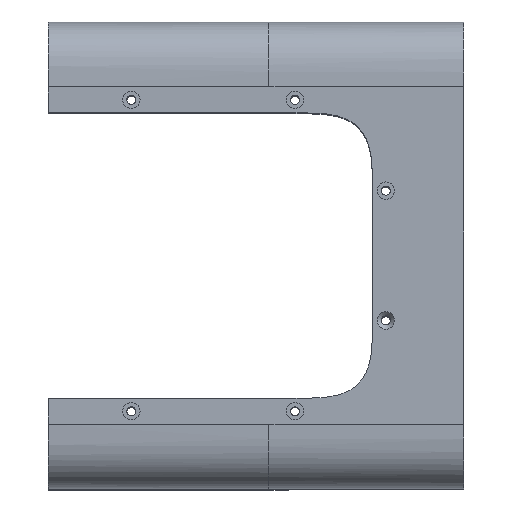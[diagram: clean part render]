
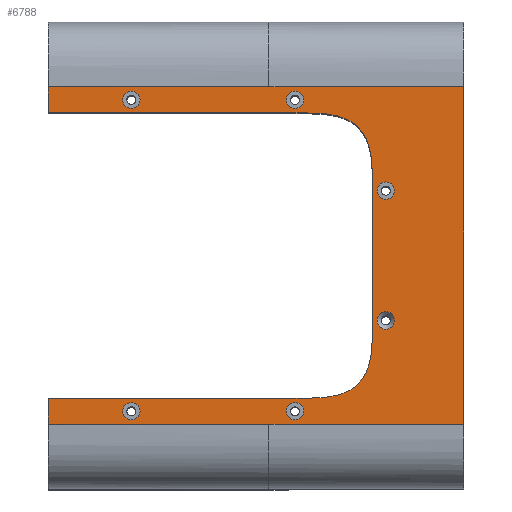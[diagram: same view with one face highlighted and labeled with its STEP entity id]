
A CAD part, top view. The second image highlights one B-rep face of the part: STEP entity #6788.
In plain terms, the highlighted planar face has unit normal (0, 0, 1).
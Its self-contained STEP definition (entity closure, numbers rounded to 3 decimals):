
#782=FACE_BOUND('',#1658,.T.);
#783=FACE_BOUND('',#1659,.T.);
#784=FACE_BOUND('',#1660,.T.);
#785=FACE_BOUND('',#1661,.T.);
#786=FACE_BOUND('',#1662,.T.);
#787=FACE_BOUND('',#1663,.T.);
#838=CIRCLE('',#7000,3.35);
#840=CIRCLE('',#7003,3.35);
#842=CIRCLE('',#7006,3.35);
#914=CIRCLE('',#7168,3.35);
#916=CIRCLE('',#7171,3.35);
#918=CIRCLE('',#7174,3.35);
#1222=FACE_OUTER_BOUND('',#1657,.T.);
#1657=EDGE_LOOP('',(#5672,#5673,#5674,#5675,#5676,#5677,#5678,#5679,#5680,
#5681,#5682,#5683));
#1658=EDGE_LOOP('',(#5684));
#1659=EDGE_LOOP('',(#5685));
#1660=EDGE_LOOP('',(#5686));
#1661=EDGE_LOOP('',(#5687));
#1662=EDGE_LOOP('',(#5688));
#1663=EDGE_LOOP('',(#5689));
#1831=(
BOUNDED_CURVE()
B_SPLINE_CURVE(5,(#18430,#18431,#18432,#18433,#18434,#18435),
 .UNSPECIFIED.,.F.,.F.)
B_SPLINE_CURVE_WITH_KNOTS((6,6),(0.,1.),.UNSPECIFIED.)
CURVE()
GEOMETRIC_REPRESENTATION_ITEM()
RATIONAL_B_SPLINE_CURVE((1.,1.,1.,1.,1.,1.))
REPRESENTATION_ITEM('')
);
#1850=(
BOUNDED_CURVE()
B_SPLINE_CURVE(5,(#38190,#38191,#38192,#38193,#38194,#38195),
 .UNSPECIFIED.,.F.,.F.)
B_SPLINE_CURVE_WITH_KNOTS((6,6),(0.,1.),.UNSPECIFIED.)
CURVE()
GEOMETRIC_REPRESENTATION_ITEM()
RATIONAL_B_SPLINE_CURVE((1.,1.,1.,1.,1.,1.))
REPRESENTATION_ITEM('')
);
#1907=LINE('',#16442,#2305);
#1913=LINE('',#16458,#2311);
#1949=LINE('',#18448,#2347);
#1951=LINE('',#18482,#2349);
#2076=LINE('',#36146,#2474);
#2080=LINE('',#36173,#2478);
#2125=LINE('',#38199,#2523);
#2127=LINE('',#38221,#2525);
#2128=LINE('',#38224,#2526);
#2129=LINE('',#38225,#2527);
#2305=VECTOR('',#7511,10.);
#2311=VECTOR('',#7523,10.);
#2347=VECTOR('',#7597,10.);
#2349=VECTOR('',#7599,10.);
#2474=VECTOR('',#8016,10.);
#2478=VECTOR('',#8024,10.);
#2523=VECTOR('',#8117,10.);
#2525=VECTOR('',#8121,10.);
#2526=VECTOR('',#8124,10.);
#2527=VECTOR('',#8125,10.);
#2737=VERTEX_POINT('',#15764);
#2739=VERTEX_POINT('',#15770);
#2741=VERTEX_POINT('',#15776);
#2779=VERTEX_POINT('',#16408);
#2780=VERTEX_POINT('',#16425);
#2787=VERTEX_POINT('',#16456);
#2822=VERTEX_POINT('',#18428);
#2823=VERTEX_POINT('',#18429);
#2827=VERTEX_POINT('',#18481);
#3023=VERTEX_POINT('',#35484);
#3025=VERTEX_POINT('',#35490);
#3027=VERTEX_POINT('',#35496);
#3065=VERTEX_POINT('',#36128);
#3066=VERTEX_POINT('',#36145);
#3071=VERTEX_POINT('',#36172);
#3110=VERTEX_POINT('',#38188);
#3111=VERTEX_POINT('',#38189);
#3113=VERTEX_POINT('',#38223);
#3412=EDGE_CURVE('',#2737,#2737,#838,.T.);
#3415=EDGE_CURVE('',#2739,#2739,#840,.T.);
#3418=EDGE_CURVE('',#2741,#2741,#842,.T.);
#3477=EDGE_CURVE('',#2779,#2780,#1907,.T.);
#3485=EDGE_CURVE('',#2787,#2780,#1913,.T.);
#3548=EDGE_CURVE('',#2822,#2823,#1831,.T.);
#3553=EDGE_CURVE('',#2787,#2823,#1949,.T.);
#3556=EDGE_CURVE('',#2827,#2779,#1951,.T.);
#3861=EDGE_CURVE('',#3023,#3023,#914,.T.);
#3864=EDGE_CURVE('',#3025,#3025,#916,.T.);
#3867=EDGE_CURVE('',#3027,#3027,#918,.T.);
#3925=EDGE_CURVE('',#3065,#3066,#2076,.T.);
#3931=EDGE_CURVE('',#3071,#3066,#2080,.T.);
#4006=EDGE_CURVE('',#3110,#3111,#1850,.T.);
#4009=EDGE_CURVE('',#3071,#3111,#2125,.T.);
#4012=EDGE_CURVE('',#3110,#2822,#2127,.T.);
#4013=EDGE_CURVE('',#3113,#3065,#2128,.T.);
#4014=EDGE_CURVE('',#2827,#3113,#2129,.T.);
#5672=ORIENTED_EDGE('',*,*,#4009,.F.);
#5673=ORIENTED_EDGE('',*,*,#3931,.T.);
#5674=ORIENTED_EDGE('',*,*,#3925,.F.);
#5675=ORIENTED_EDGE('',*,*,#4013,.F.);
#5676=ORIENTED_EDGE('',*,*,#4014,.F.);
#5677=ORIENTED_EDGE('',*,*,#3556,.T.);
#5678=ORIENTED_EDGE('',*,*,#3477,.T.);
#5679=ORIENTED_EDGE('',*,*,#3485,.F.);
#5680=ORIENTED_EDGE('',*,*,#3553,.T.);
#5681=ORIENTED_EDGE('',*,*,#3548,.F.);
#5682=ORIENTED_EDGE('',*,*,#4012,.F.);
#5683=ORIENTED_EDGE('',*,*,#4006,.T.);
#5684=ORIENTED_EDGE('',*,*,#3418,.T.);
#5685=ORIENTED_EDGE('',*,*,#3415,.T.);
#5686=ORIENTED_EDGE('',*,*,#3412,.T.);
#5687=ORIENTED_EDGE('',*,*,#3861,.F.);
#5688=ORIENTED_EDGE('',*,*,#3864,.F.);
#5689=ORIENTED_EDGE('',*,*,#3867,.F.);
#6488=PLANE('',#7219);
#6788=ADVANCED_FACE('',(#1222,#782,#783,#784,#785,#786,#787),#6488,.F.);
#7000=AXIS2_PLACEMENT_3D('',#15765,#7440,#7441);
#7003=AXIS2_PLACEMENT_3D('',#15771,#7447,#7448);
#7006=AXIS2_PLACEMENT_3D('',#15777,#7454,#7455);
#7168=AXIS2_PLACEMENT_3D('',#35485,#7945,#7946);
#7171=AXIS2_PLACEMENT_3D('',#35491,#7952,#7953);
#7174=AXIS2_PLACEMENT_3D('',#35497,#7959,#7960);
#7219=AXIS2_PLACEMENT_3D('',#38222,#8122,#8123);
#7440=DIRECTION('center_axis',(0.,0.,
-1.));
#7441=DIRECTION('ref_axis',(-1.,0.,0.));
#7447=DIRECTION('center_axis',(0.,0.,
-1.));
#7448=DIRECTION('ref_axis',(-1.,0.,0.));
#7454=DIRECTION('center_axis',(0.,0.,
-1.));
#7455=DIRECTION('ref_axis',(-1.,0.,0.));
#7511=DIRECTION('',(-1.,0.,0.));
#7523=DIRECTION('',(0.,1.,0.));
#7597=DIRECTION('',(1.,0.,0.));
#7599=DIRECTION('',(-1.,0.,0.));
#7945=DIRECTION('center_axis',(0.,0.,
1.));
#7946=DIRECTION('ref_axis',(-1.,0.,0.));
#7952=DIRECTION('center_axis',(0.,0.,
1.));
#7953=DIRECTION('ref_axis',(-1.,0.,0.));
#7959=DIRECTION('center_axis',(0.,0.,
1.));
#7960=DIRECTION('ref_axis',(-1.,0.,0.));
#8016=DIRECTION('',(-1.,0.,0.));
#8024=DIRECTION('',(0.,-1.,0.));
#8117=DIRECTION('',(1.,0.,0.));
#8121=DIRECTION('',(0.,1.,0.));
#8122=DIRECTION('center_axis',(0.,0.,
-1.));
#8123=DIRECTION('ref_axis',(0.,-1.,0.));
#8124=DIRECTION('',(-1.,0.,0.));
#8125=DIRECTION('',(0.,-1.,0.));
#15764=CARTESIAN_POINT('',(98.35,60.,116.5));
#15765=CARTESIAN_POINT('Origin',(95.,60.,116.5));
#15770=CARTESIAN_POINT('',(133.35,25.,116.5));
#15771=CARTESIAN_POINT('Origin',(130.,25.,116.5));
#15776=CARTESIAN_POINT('',(35.35,60.,116.5));
#15777=CARTESIAN_POINT('Origin',(32.,60.,116.5));
#16408=CARTESIAN_POINT('',(85.,65.,116.5));
#16425=CARTESIAN_POINT('',(0.,65.,116.5));
#16442=CARTESIAN_POINT('',(85.,65.,116.5));
#16456=CARTESIAN_POINT('',(0.,55.,116.5));
#16458=CARTESIAN_POINT('',(0.,33.75,116.5));
#18428=CARTESIAN_POINT('',(125.,25.,116.5));
#18429=CARTESIAN_POINT('',(95.,55.,116.5));
#18430=CARTESIAN_POINT('Ctrl Pts',(125.,25.,116.5));
#18431=CARTESIAN_POINT('Ctrl Pts',(125.,40.,116.5));
#18432=CARTESIAN_POINT('Ctrl Pts',(125.,47.5,116.5));
#18433=CARTESIAN_POINT('Ctrl Pts',(117.5,55.,116.5));
#18434=CARTESIAN_POINT('Ctrl Pts',(110.,55.,116.5));
#18435=CARTESIAN_POINT('Ctrl Pts',(95.,55.,116.5));
#18448=CARTESIAN_POINT('',(100.,55.,116.5));
#18481=CARTESIAN_POINT('',(160.,65.,116.5));
#18482=CARTESIAN_POINT('',(160.,65.,116.5));
#35484=CARTESIAN_POINT('',(98.35,-60.,116.5));
#35485=CARTESIAN_POINT('Origin',(95.,-60.,116.5));
#35490=CARTESIAN_POINT('',(133.35,-25.,116.5));
#35491=CARTESIAN_POINT('Origin',(130.,-25.,116.5));
#35496=CARTESIAN_POINT('',(35.35,-60.,116.5));
#35497=CARTESIAN_POINT('Origin',(32.,-60.,116.5));
#36128=CARTESIAN_POINT('',(85.,-65.,116.5));
#36145=CARTESIAN_POINT('',(0.,-65.,116.5));
#36146=CARTESIAN_POINT('',(85.,-65.,116.5));
#36172=CARTESIAN_POINT('',(0.,-55.,116.5));
#36173=CARTESIAN_POINT('',(0.,-33.75,116.5));
#38188=CARTESIAN_POINT('',(125.,-25.,116.5));
#38189=CARTESIAN_POINT('',(95.,-55.,116.5));
#38190=CARTESIAN_POINT('Ctrl Pts',(125.,-25.,116.5));
#38191=CARTESIAN_POINT('Ctrl Pts',(125.,-40.,116.5));
#38192=CARTESIAN_POINT('Ctrl Pts',(125.,-47.5,116.5));
#38193=CARTESIAN_POINT('Ctrl Pts',(117.5,-55.,116.5));
#38194=CARTESIAN_POINT('Ctrl Pts',(110.,-55.,116.5));
#38195=CARTESIAN_POINT('Ctrl Pts',(95.,-55.,116.5));
#38199=CARTESIAN_POINT('',(100.,-55.,116.5));
#38221=CARTESIAN_POINT('',(125.,-35.,116.5));
#38222=CARTESIAN_POINT('Origin',(160.,-15.,116.5));
#38223=CARTESIAN_POINT('',(160.,-65.,116.5));
#38224=CARTESIAN_POINT('',(160.,-65.,116.5));
#38225=CARTESIAN_POINT('',(160.,65.,116.5));
